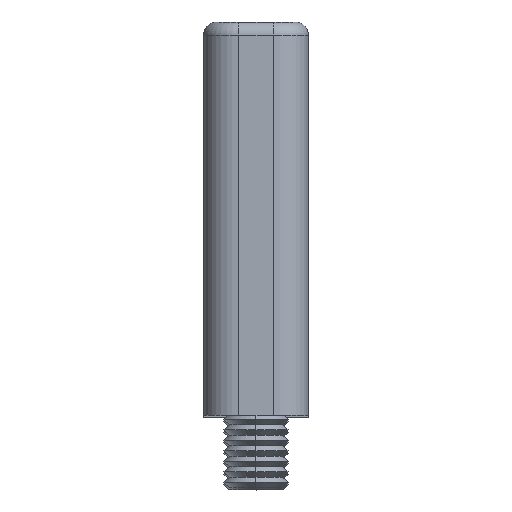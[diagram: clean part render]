
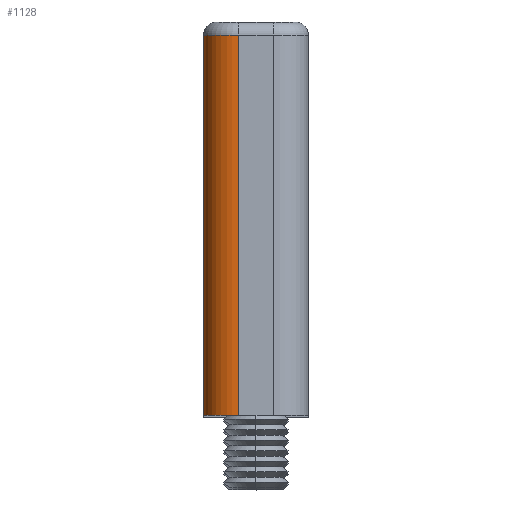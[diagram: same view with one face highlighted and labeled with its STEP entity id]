
A CAD part, top view. The second image highlights one B-rep face of the part: STEP entity #1128.
In plain terms, the highlighted cylindrical face has radius 2.667 mm (diameter 5.333 mm), a partial arc.
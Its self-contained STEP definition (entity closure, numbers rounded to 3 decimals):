
#122 = ORIENTED_EDGE ( 'NONE', *, *, #1774, .T. ) ;
#285 = DIRECTION ( 'NONE',  ( 0., 0., 1. ) ) ;
#404 = CARTESIAN_POINT ( 'NONE',  ( -7.5, 30., -1.333 ) ) ;
#841 = ORIENTED_EDGE ( 'NONE', *, *, #1267, .T. ) ;
#1128 = ADVANCED_FACE ( 'NONE', ( #2925 ), #3728, .T. ) ;
#1226 = VECTOR ( 'NONE', #5011, 1000. ) ;
#1257 = VERTEX_POINT ( 'NONE', #2325 ) ;
#1267 = EDGE_CURVE ( 'NONE', #1483, #1273, #5417, .T. ) ;
#1273 = VERTEX_POINT ( 'NONE', #3587 ) ;
#1404 = CIRCLE ( 'NONE', #3594, 2.667 ) ;
#1483 = VERTEX_POINT ( 'NONE', #2566 ) ;
#1507 = DIRECTION ( 'NONE',  ( 0., 1., 0. ) ) ;
#1774 = EDGE_CURVE ( 'NONE', #4055, #1483, #5324, .T. ) ;
#1969 = ORIENTED_EDGE ( 'NONE', *, *, #5667, .T. ) ;
#1998 = VECTOR ( 'NONE', #2230, 1000. ) ;
#2230 = DIRECTION ( 'NONE',  ( 0., -1., 0. ) ) ;
#2251 = ORIENTED_EDGE ( 'NONE', *, *, #2610, .F. ) ;
#2325 = CARTESIAN_POINT ( 'NONE',  ( -7.5, 0., -1.333 ) ) ;
#2445 = LINE ( 'NONE', #404, #1226 ) ;
#2460 = CARTESIAN_POINT ( 'NONE',  ( -7.5, 29., -1.333 ) ) ;
#2566 = CARTESIAN_POINT ( 'NONE',  ( -4.833, 29., -4. ) ) ;
#2610 = EDGE_CURVE ( 'NONE', #4055, #1257, #2445, .T. ) ;
#2636 = CARTESIAN_POINT ( 'NONE',  ( -4.833, 0., -1.333 ) ) ;
#2685 = CARTESIAN_POINT ( 'NONE',  ( -4.833, 30., -4. ) ) ;
#2906 = EDGE_LOOP ( 'NONE', ( #2251, #122, #841, #1969 ) ) ;
#2925 = FACE_OUTER_BOUND ( 'NONE', #2906, .T. ) ;
#3182 = DIRECTION ( 'NONE',  ( 0., 0., -1. ) ) ;
#3587 = CARTESIAN_POINT ( 'NONE',  ( -4.833, 0., -4. ) ) ;
#3594 = AXIS2_PLACEMENT_3D ( 'NONE', #2636, #1507, #285 ) ;
#3728 = CYLINDRICAL_SURFACE ( 'NONE', #5820, 2.667 ) ;
#4055 = VERTEX_POINT ( 'NONE', #2460 ) ;
#4554 = AXIS2_PLACEMENT_3D ( 'NONE', #5140, #4789, #5252 ) ;
#4789 = DIRECTION ( 'NONE',  ( 0., -1., 0. ) ) ;
#4841 = CARTESIAN_POINT ( 'NONE',  ( -4.833, 30., -1.333 ) ) ;
#5011 = DIRECTION ( 'NONE',  ( 0., -1., 0. ) ) ;
#5140 = CARTESIAN_POINT ( 'NONE',  ( -4.833, 29., -1.333 ) ) ;
#5252 = DIRECTION ( 'NONE',  ( 0., 0., 1. ) ) ;
#5324 = CIRCLE ( 'NONE', #4554, 2.667 ) ;
#5417 = LINE ( 'NONE', #2685, #1998 ) ;
#5667 = EDGE_CURVE ( 'NONE', #1273, #1257, #1404, .T. ) ;
#5820 = AXIS2_PLACEMENT_3D ( 'NONE', #4841, #5903, #3182 ) ;
#5903 = DIRECTION ( 'NONE',  ( 0., -1., 0. ) ) ;
